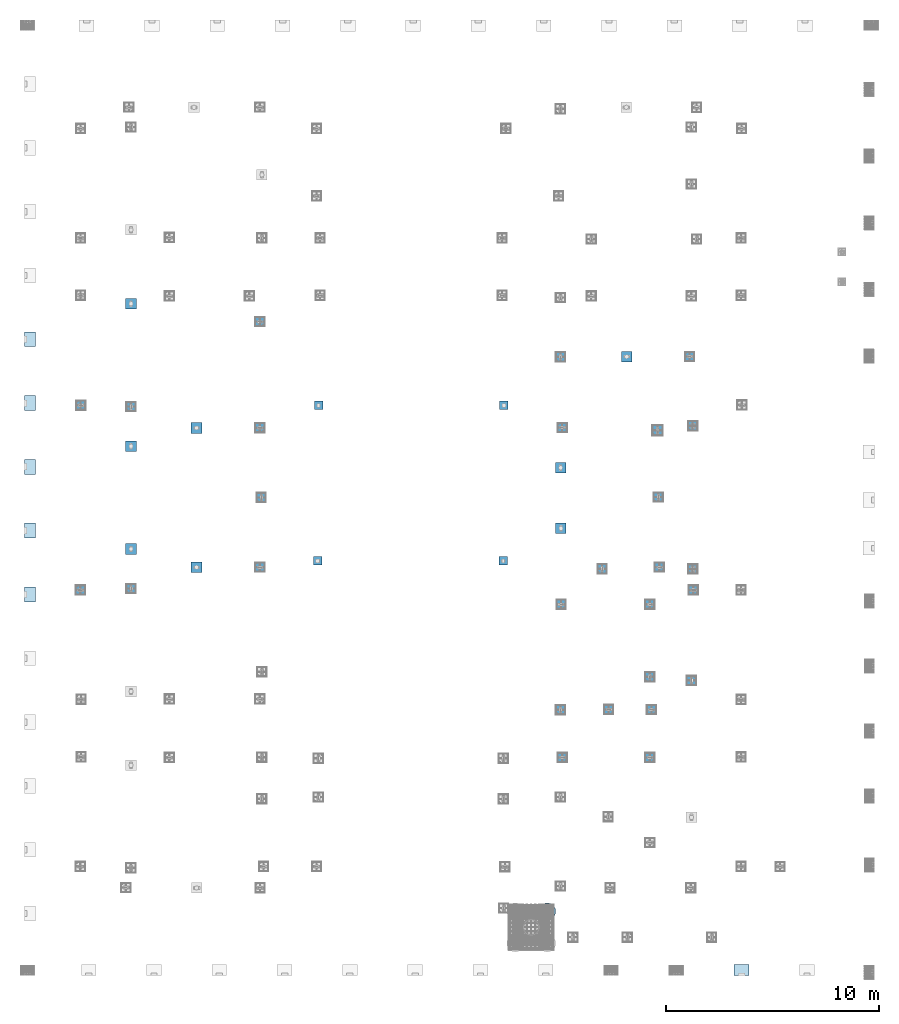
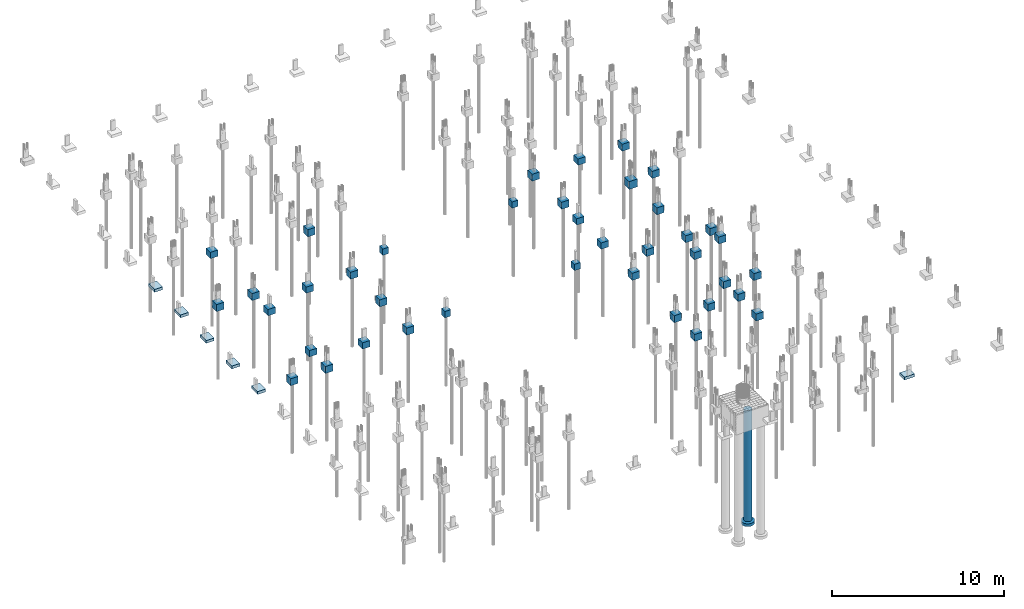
# One storey, part 118 of 119: 45 footings, 1 pile.
"""IFC4 building model written with IfcOpenShell, lengths in centimetres."""

from ifc_helpers import new_model, si_unit, derived_unit, frame, origin_with_axes, origin_2d_with_axis, place, context, project, spatial, circle, extrude, faceted_brep, material, element, save


model = new_model("IFC4")

# Units and contexts
model_context = context("Model", 3, precision=1e-05, world=origin_with_axes(), identifier="Body")
ifc_project = project(units=[si_unit("LENGTHUNIT", "METRE", prefix="CENTI"), si_unit("VOLUMEUNIT", "CUBIC_METRE"), si_unit("AREAUNIT", "SQUARE_METRE"), si_unit("POWERUNIT", "WATT"), si_unit("LUMINOUSFLUXUNIT", "LUMEN"), si_unit("ELECTRICCURRENTUNIT", "AMPERE"), si_unit("PRESSUREUNIT", "PASCAL", prefix="KILO"), si_unit("MASSUNIT", "GRAM", prefix="KILO"), si_unit("PLANEANGLEUNIT", "RADIAN"), derived_unit("VOLUMETRICFLOWRATEUNIT", [(si_unit("LENGTHUNIT", "METRE"), 3), (si_unit("TIMEUNIT", "SECOND"), -1)])], contexts=[model_context])

# Site, building, storey
site_placement = place(None, frame((-4000.0, 0.0, 0.0), z_axis=(0.0, 0.0, 1.0), x_axis=(1.0, 0.0, 0.0)))
site = spatial("IfcSite", under=ifc_project, at=site_placement, Name="PADRÃO")
building_placement = place(site_placement, frame((0.0, 0.0, -14.0)))
building = spatial("IfcBuilding", under=site, at=building_placement, Name="CRECHE PRÉ-ESCOLA TIPO 2")
storey_placement = place(building_placement, origin_with_axes())
storey = spatial("IfcBuildingStorey", under=building, at=storey_placement, Name="FUNDAÇÃO", CompositionType="ELEMENT", Elevation=-14.0)

# Footings
ifc_material = material(Name="Concreto")
footing_1_placement = place(storey_placement, frame((2943.24, 1406.51, -80.0), z_axis=(0.0, 0.0, 1.0), x_axis=(1.0, 0.0, 0.0)))
element("IfcFooting", 1, at=footing_1_placement, inside=storey, material=ifc_material, Name="P104", context=model_context, shape_type="SolidModel", body=[
    faceted_brep([(25.0, 25.0, -50.0), (25.0, -25.0, -50.0), (-25.0, -25.0, -50.0), (-25.0, 25.0, -50.0), (-25.0, 25.0, 0.0), (-25.0, -25.0, 0.0), (25.0, -25.0, 0.0), (25.0, 25.0, 0.0)], [[[0, 1, 2, 3]], [[4, 5, 6, 7]], [[4, 3, 5]], [[3, 2, 5]], [[5, 2, 6]], [[2, 1, 6]], [[6, 1, 7]], [[1, 0, 7]], [[7, 0, 4]], [[0, 3, 4]]]),
])
footing_2_placement = place(storey_placement, frame((3138.5, 1389.52, -80.0), z_axis=(0.0, 0.0, 1.0), x_axis=(1.0, 0.0, 0.0)))
element("IfcFooting", 2, at=footing_2_placement, inside=storey, material=ifc_material, Name="P105", context=model_context, shape_type="SolidModel", body=[
    faceted_brep([(-25.0, -25.0, -50.0), (-25.0, 25.0, -50.0), (25.0, 25.0, -50.0), (25.0, -25.0, -50.0), (25.0, -25.0, 0.0), (25.0, 25.0, 0.0), (-25.0, 25.0, 0.0), (-25.0, -25.0, 0.0)], [[[0, 1, 2, 3]], [[4, 5, 6, 7]], [[4, 3, 5]], [[3, 2, 5]], [[5, 2, 6]], [[2, 1, 6]], [[6, 1, 7]], [[1, 0, 7]], [[7, 0, 4]], [[0, 3, 4]]]),
])
footing_3_placement = place(storey_placement, frame((2523.5, 1252.08, -80.0), z_axis=(0.0, 0.0, 1.0), x_axis=(1.0, 0.0, 0.0)))
element("IfcFooting", 3, at=footing_3_placement, inside=storey, material=ifc_material, Name="P110", context=model_context, shape_type="SolidModel", body=[
    faceted_brep([(25.0, 25.0, -50.0), (25.0, -25.0, -50.0), (-25.0, -25.0, -50.0), (-25.0, 25.0, -50.0), (-25.0, 25.0, 0.0), (-25.0, -25.0, 0.0), (25.0, -25.0, 0.0), (25.0, 25.0, 0.0)], [[[0, 1, 2, 3]], [[4, 5, 6, 7]], [[4, 3, 5]], [[3, 2, 5]], [[5, 2, 6]], [[2, 1, 6]], [[6, 1, 7]], [[1, 0, 7]], [[7, 0, 4]], [[0, 3, 4]]]),
])
for number, where, z_axis, x_axis, name in (
    (4, (2749.74, 1253.51, -80.0), (0.0, 0.0, 1.0), (1.0, 0.0, 0.0), "P111"),
    (5, (2951.24, 1252.52, -80.0), (0.0, 0.0, 1.0), (1.0, 0.0, 0.0), "P112"),
    (6, (2531.5, 1027.52, -80.0), (0.0, 0.0, 1.0), (1.0, 0.0, 0.0), "P122"),
    (7, (2943.24, 1027.52, -80.0), (0.0, 0.0, 1.0), (1.0, 0.0, 0.0), "P123"),
):
    element("IfcFooting", number, at=place(storey_placement, frame(where, z_axis=z_axis, x_axis=x_axis)), inside=storey, material=ifc_material, Name=name, context=model_context, shape_type="SolidModel", body=[
        faceted_brep([(-25.0, 25.0, -50.0), (25.0, 25.0, -50.0), (25.0, -25.0, -50.0), (-25.0, -25.0, -50.0), (-25.0, -25.0, 0.0), (25.0, -25.0, 0.0), (25.0, 25.0, 0.0), (-25.0, 25.0, 0.0)], [[[0, 1, 2, 3]], [[4, 5, 6, 7]], [[4, 3, 5]], [[3, 2, 5]], [[5, 2, 6]], [[2, 1, 6]], [[6, 1, 7]], [[1, 0, 7]], [[7, 0, 4]], [[0, 3, 4]]]),
    ])
footing_4_placement = place(storey_placement, frame((3374.5, 29.0, -69.0), z_axis=(0.0, 0.0, 1.0), x_axis=(1.0, 0.0, 0.0)))
element("IfcFooting", 8, at=footing_4_placement, inside=storey, material=ifc_material, Name="P166", PredefinedType="PAD_FOOTING", context=model_context, shape_type="SolidModel", body=[
    faceted_brep([(-35.0, -27.0, -20.0), (-35.0, 27.0, -20.0), (35.0, 27.0, -20.0), (35.0, -27.0, -20.0), (35.0, -27.0, 0.0), (35.0, 27.0, 0.0), (-35.0, 27.0, 0.0), (-35.0, -27.0, 0.0)], [[[0, 1, 2, 3]], [[4, 5, 6, 7]], [[4, 3, 5]], [[3, 2, 5]], [[5, 2, 6]], [[2, 1, 6]], [[6, 1, 7]], [[1, 0, 7]], [[7, 0, 4]], [[0, 3, 4]]]),
])
footing_5_placement = place(storey_placement, frame((503.69, 3161.5, -80.0), z_axis=(0.0, 0.0, 1.0), x_axis=(1.0, 0.0, 0.0)))
element("IfcFooting", 9, at=footing_5_placement, inside=storey, material=ifc_material, Name="P48", context=model_context, shape_type="SolidModel", body=[
    faceted_brep([(25.0, 25.0, -45.0), (25.0, -25.0, -45.0), (-25.0, -25.0, -45.0), (-25.0, 25.0, -45.0), (-25.0, 25.0, 0.0), (-25.0, -25.0, 0.0), (25.0, -25.0, 0.0), (25.0, 25.0, 0.0)], [[[0, 1, 2, 3]], [[4, 5, 6, 7]], [[4, 3, 5]], [[3, 2, 5]], [[5, 2, 6]], [[2, 1, 6]], [[6, 1, 7]], [[1, 0, 7]], [[7, 0, 4]], [[0, 3, 4]]]),
])
footing_6_placement = place(storey_placement, frame((1109.72, 3076.5, -80.0), z_axis=(0.0, 0.0, 1.0), x_axis=(1.0, 0.0, 0.0)))
element("IfcFooting", 10, at=footing_6_placement, inside=storey, material=ifc_material, Name="P58", context=model_context, shape_type="SolidModel", body=[
    faceted_brep([(-25.0, 25.0, -50.0), (25.0, 25.0, -50.0), (25.0, -25.0, -50.0), (-25.0, -25.0, -50.0), (-25.0, -25.0, 0.0), (25.0, -25.0, 0.0), (25.0, 25.0, 0.0), (-25.0, 25.0, 0.0)], [[[0, 1, 2, 3]], [[4, 5, 6, 7]], [[4, 3, 5]], [[3, 2, 5]], [[5, 2, 6]], [[2, 1, 6]], [[6, 1, 7]], [[1, 0, 7]], [[7, 0, 4]], [[0, 3, 4]]]),
])
footing_7_placement = place(storey_placement, frame((28.5, 2994.5, -69.0), z_axis=(0.0, 0.0, 1.0), x_axis=(1.0, 0.0, 0.0)))
element("IfcFooting", 11, at=footing_7_placement, inside=storey, material=ifc_material, Name="P59", PredefinedType="PAD_FOOTING", context=model_context, shape_type="SolidModel", body=[
    faceted_brep([(-27.0, 35.0, -20.0), (27.0, 35.0, -20.0), (27.0, -35.0, -20.0), (-27.0, -35.0, -20.0), (-27.0, -35.0, 0.0), (27.0, -35.0, 0.0), (27.0, 35.0, 0.0), (-27.0, 35.0, 0.0)], [[[0, 1, 2, 3]], [[4, 5, 6, 7]], [[4, 3, 5]], [[3, 2, 5]], [[5, 2, 6]], [[2, 1, 6]], [[6, 1, 7]], [[1, 0, 7]], [[7, 0, 4]], [[0, 3, 4]]]),
])
footing_8_placement = place(storey_placement, frame((2523.5, 2911.02, -80.0), z_axis=(0.0, 0.0, 1.0), x_axis=(1.0, 0.0, 0.0)))
element("IfcFooting", 12, at=footing_8_placement, inside=storey, material=ifc_material, Name="P60", context=model_context, shape_type="SolidModel", body=[
    faceted_brep([(25.0, 25.0, -50.0), (25.0, -25.0, -50.0), (-25.0, -25.0, -50.0), (-25.0, 25.0, -50.0), (-25.0, 25.0, 0.0), (-25.0, -25.0, 0.0), (25.0, -25.0, 0.0), (25.0, 25.0, 0.0)], [[[0, 1, 2, 3]], [[4, 5, 6, 7]], [[4, 3, 5]], [[3, 2, 5]], [[5, 2, 6]], [[2, 1, 6]], [[6, 1, 7]], [[1, 0, 7]], [[7, 0, 4]], [[0, 3, 4]]]),
])
footing_9_placement = place(storey_placement, frame((2834.0, 2912.52, -80.0), z_axis=(0.0, 0.0, 1.0), x_axis=(1.0, 0.0, 0.0)))
element("IfcFooting", 13, at=footing_9_placement, inside=storey, material=ifc_material, Name="P61", context=model_context, shape_type="SolidModel", body=[
    faceted_brep([(25.0, -25.0, -45.0), (-25.0, -25.0, -45.0), (-25.0, 25.0, -45.0), (25.0, 25.0, -45.0), (25.0, 25.0, 0.0), (-25.0, 25.0, 0.0), (-25.0, -25.0, 0.0), (25.0, -25.0, 0.0)], [[[0, 1, 2, 3]], [[4, 5, 6, 7]], [[4, 3, 5]], [[3, 2, 5]], [[5, 2, 6]], [[2, 1, 6]], [[6, 1, 7]], [[1, 0, 7]], [[7, 0, 4]], [[0, 3, 4]]]),
])
footing_10_placement = place(storey_placement, frame((3130.5, 2912.52, -80.0), z_axis=(0.0, 0.0, 1.0), x_axis=(1.0, 0.0, 0.0)))
element("IfcFooting", 14, at=footing_10_placement, inside=storey, material=ifc_material, Name="P62", context=model_context, shape_type="SolidModel", body=[
    faceted_brep([(25.0, -25.0, -50.0), (-25.0, -25.0, -50.0), (-25.0, 25.0, -50.0), (25.0, 25.0, -50.0), (25.0, 25.0, 0.0), (-25.0, 25.0, 0.0), (-25.0, -25.0, 0.0), (25.0, -25.0, 0.0)], [[[0, 1, 2, 3]], [[4, 5, 6, 7]], [[4, 3, 5]], [[3, 2, 5]], [[5, 2, 6]], [[2, 1, 6]], [[6, 1, 7]], [[1, 0, 7]], [[7, 0, 4]], [[0, 3, 4]]]),
])
footing_11_placement = place(storey_placement, frame((28.5, 2694.5, -69.0), z_axis=(0.0, 0.0, 1.0), x_axis=(1.0, 0.0, 0.0)))
element("IfcFooting", 15, at=footing_11_placement, inside=storey, material=ifc_material, Name="P64", PredefinedType="PAD_FOOTING", context=model_context, shape_type="SolidModel", body=[
    faceted_brep([(-27.0, 35.0, -20.0), (27.0, 35.0, -20.0), (27.0, -35.0, -20.0), (-27.0, -35.0, -20.0), (-27.0, -35.0, 0.0), (27.0, -35.0, 0.0), (27.0, 35.0, 0.0), (-27.0, 35.0, 0.0)], [[[0, 1, 2, 3]], [[4, 5, 6, 7]], [[4, 3, 5]], [[3, 2, 5]], [[5, 2, 6]], [[2, 1, 6]], [[6, 1, 7]], [[1, 0, 7]], [[7, 0, 4]], [[0, 3, 4]]]),
])
footing_12_placement = place(storey_placement, frame((268.0, 2683.51, -80.0), z_axis=(0.0, 0.0, 1.0), x_axis=(1.0, 0.0, 0.0)))
element("IfcFooting", 16, at=footing_12_placement, inside=storey, material=ifc_material, Name="P65", context=model_context, shape_type="SolidModel", body=[
    faceted_brep([(25.0, -25.0, -50.0), (-25.0, -25.0, -50.0), (-25.0, 25.0, -50.0), (25.0, 25.0, -50.0), (25.0, 25.0, 0.0), (-25.0, 25.0, 0.0), (-25.0, -25.0, 0.0), (25.0, -25.0, 0.0)], [[[0, 1, 2, 3]], [[4, 5, 6, 7]], [[4, 3, 5]], [[3, 2, 5]], [[5, 2, 6]], [[2, 1, 6]], [[6, 1, 7]], [[1, 0, 7]], [[7, 0, 4]], [[0, 3, 4]]]),
])
footing_13_placement = place(storey_placement, frame((503.69, 2677.01, -80.0), z_axis=(0.0, 0.0, 1.0), x_axis=(1.0, 0.0, 0.0)))
element("IfcFooting", 17, at=footing_13_placement, inside=storey, material=ifc_material, Name="P66", context=model_context, shape_type="SolidModel", body=[
    faceted_brep([(25.0, 25.0, -50.0), (25.0, -25.0, -50.0), (-25.0, -25.0, -50.0), (-25.0, 25.0, -50.0), (-25.0, 25.0, 0.0), (-25.0, -25.0, 0.0), (25.0, -25.0, 0.0), (25.0, 25.0, 0.0)], [[[0, 1, 2, 3]], [[4, 5, 6, 7]], [[4, 3, 5]], [[3, 2, 5]], [[5, 2, 6]], [[2, 1, 6]], [[6, 1, 7]], [[1, 0, 7]], [[7, 0, 4]], [[0, 3, 4]]]),
])
for number, where, z_axis, x_axis, name in (
    (18, (1385.25, 2683.51, -80.0), (0.0, 0.0, 1.0), (1.0, 0.0, 0.0), "P67"),
    (19, (2256.49, 2683.51, -50.0), (0.0, 0.0, 1.0), (1.0, 0.0, 0.0), "P68"),
):
    element("IfcFooting", number, at=place(storey_placement, frame(where, z_axis=z_axis, x_axis=x_axis)), inside=storey, material=ifc_material, Name=name, context=model_context, shape_type="SolidModel", body=[
        faceted_brep([(-20.0, -20.0, -45.0), (-20.0, 20.0, -45.0), (20.0, 20.0, -45.0), (20.0, -20.0, -45.0), (20.0, -20.0, 0.0), (20.0, 20.0, 0.0), (-20.0, 20.0, 0.0), (-20.0, -20.0, 0.0)], [[[0, 1, 2, 3]], [[4, 5, 6, 7]], [[4, 3, 5]], [[3, 2, 5]], [[5, 2, 6]], [[2, 1, 6]], [[6, 1, 7]], [[1, 0, 7]], [[7, 0, 4]], [[0, 3, 4]]]),
    ])
footing_14_placement = place(storey_placement, frame((811.39, 2577.5, -80.0), z_axis=(0.0, 0.0, 1.0), x_axis=(1.0, 0.0, 0.0)))
element("IfcFooting", 20, at=footing_14_placement, inside=storey, material=ifc_material, Name="P70", context=model_context, shape_type="SolidModel", body=[
    faceted_brep([(25.0, -25.0, -45.0), (-25.0, -25.0, -45.0), (-25.0, 25.0, -45.0), (25.0, 25.0, -45.0), (25.0, 25.0, 0.0), (-25.0, 25.0, 0.0), (-25.0, -25.0, 0.0), (25.0, -25.0, 0.0)], [[[0, 1, 2, 3]], [[4, 5, 6, 7]], [[4, 3, 5]], [[3, 2, 5]], [[5, 2, 6]], [[2, 1, 6]], [[6, 1, 7]], [[1, 0, 7]], [[7, 0, 4]], [[0, 3, 4]]]),
])
footing_15_placement = place(storey_placement, frame((1109.72, 2577.5, -80.0), z_axis=(0.0, 0.0, 1.0), x_axis=(1.0, 0.0, 0.0)))
element("IfcFooting", 21, at=footing_15_placement, inside=storey, material=ifc_material, Name="P71", context=model_context, shape_type="SolidModel", body=[
    faceted_brep([(-25.0, 25.0, -50.0), (25.0, 25.0, -50.0), (25.0, -25.0, -50.0), (-25.0, -25.0, -50.0), (-25.0, -25.0, 0.0), (25.0, -25.0, 0.0), (25.0, 25.0, 0.0), (-25.0, 25.0, 0.0)], [[[0, 1, 2, 3]], [[4, 5, 6, 7]], [[4, 3, 5]], [[3, 2, 5]], [[5, 2, 6]], [[2, 1, 6]], [[6, 1, 7]], [[1, 0, 7]], [[7, 0, 4]], [[0, 3, 4]]]),
])
footing_16_placement = place(storey_placement, frame((2531.5, 2578.52, -80.0), z_axis=(0.0, 0.0, 1.0), x_axis=(1.0, 0.0, 0.0)))
element("IfcFooting", 22, at=footing_16_placement, inside=storey, material=ifc_material, Name="P72", context=model_context, shape_type="SolidModel", body=[
    faceted_brep([(25.0, -25.0, -50.0), (-25.0, -25.0, -50.0), (-25.0, 25.0, -50.0), (25.0, 25.0, -50.0), (25.0, 25.0, 0.0), (-25.0, 25.0, 0.0), (-25.0, -25.0, 0.0), (25.0, -25.0, 0.0)], [[[0, 1, 2, 3]], [[4, 5, 6, 7]], [[4, 3, 5]], [[3, 2, 5]], [[5, 2, 6]], [[2, 1, 6]], [[6, 1, 7]], [[1, 0, 7]], [[7, 0, 4]], [[0, 3, 4]]]),
])
footing_17_placement = place(storey_placement, frame((2979.5, 2566.02, -80.0), z_axis=(0.0, 0.0, 1.0), x_axis=(1.0, 0.0, 0.0)))
element("IfcFooting", 23, at=footing_17_placement, inside=storey, material=ifc_material, Name="P73", context=model_context, shape_type="SolidModel", body=[
    faceted_brep([(27.5, 27.5, -55.0), (27.5, -27.5, -55.0), (-27.5, -27.5, -55.0), (-27.5, 27.5, -55.0), (-27.5, 27.5, 0.0), (-27.5, -27.5, 0.0), (27.5, -27.5, 0.0), (27.5, 27.5, 0.0)], [[[0, 1, 2, 3]], [[4, 5, 6, 7]], [[4, 3, 5]], [[3, 2, 5]], [[5, 2, 6]], [[2, 1, 6]], [[6, 1, 7]], [[1, 0, 7]], [[7, 0, 4]], [[0, 3, 4]]]),
])
footing_18_placement = place(storey_placement, frame((3145.02, 2586.52, -80.0), z_axis=(0.0, 0.0, 1.0), x_axis=(1.0, 0.0, 0.0)))
element("IfcFooting", 24, at=footing_18_placement, inside=storey, material=ifc_material, Name="P74", context=model_context, shape_type="SolidModel", body=[
    faceted_brep([(25.0, 25.0, -50.0), (25.0, -25.0, -50.0), (-25.0, -25.0, -50.0), (-25.0, 25.0, -50.0), (-25.0, 25.0, 0.0), (-25.0, -25.0, 0.0), (25.0, -25.0, 0.0), (25.0, 25.0, 0.0)], [[[0, 1, 2, 3]], [[4, 5, 6, 7]], [[4, 3, 5]], [[3, 2, 5]], [[5, 2, 6]], [[2, 1, 6]], [[6, 1, 7]], [[1, 0, 7]], [[7, 0, 4]], [[0, 3, 4]]]),
])
footing_19_placement = place(storey_placement, frame((503.69, 2491.5, -80.0), z_axis=(0.0, 0.0, 1.0), x_axis=(1.0, 0.0, 0.0)))
element("IfcFooting", 25, at=footing_19_placement, inside=storey, material=ifc_material, Name="P75", context=model_context, shape_type="SolidModel", body=[
    faceted_brep([(25.0, 25.0, -45.0), (25.0, -25.0, -45.0), (-25.0, -25.0, -45.0), (-25.0, 25.0, -45.0), (-25.0, 25.0, 0.0), (-25.0, -25.0, 0.0), (25.0, -25.0, 0.0), (25.0, 25.0, 0.0)], [[[0, 1, 2, 3]], [[4, 5, 6, 7]], [[4, 3, 5]], [[3, 2, 5]], [[5, 2, 6]], [[2, 1, 6]], [[6, 1, 7]], [[1, 0, 7]], [[7, 0, 4]], [[0, 3, 4]]]),
])
footing_20_placement = place(storey_placement, frame((28.5, 2394.5, -69.0), z_axis=(0.0, 0.0, 1.0), x_axis=(1.0, 0.0, 0.0)))
element("IfcFooting", 26, at=footing_20_placement, inside=storey, material=ifc_material, Name="P77", PredefinedType="PAD_FOOTING", context=model_context, shape_type="SolidModel", body=[
    faceted_brep([(-27.0, 35.0, -20.0), (27.0, 35.0, -20.0), (27.0, -35.0, -20.0), (-27.0, -35.0, -20.0), (-27.0, -35.0, 0.0), (27.0, -35.0, 0.0), (27.0, 35.0, 0.0), (-27.0, 35.0, 0.0)], [[[0, 1, 2, 3]], [[4, 5, 6, 7]], [[4, 3, 5]], [[3, 2, 5]], [[5, 2, 6]], [[2, 1, 6]], [[6, 1, 7]], [[1, 0, 7]], [[7, 0, 4]], [[0, 3, 4]]]),
])
footing_21_placement = place(storey_placement, frame((2523.5, 2390.27, -80.0), z_axis=(0.0, 0.0, 1.0), x_axis=(1.0, 0.0, 0.0)))
element("IfcFooting", 27, at=footing_21_placement, inside=storey, material=ifc_material, Name="P78", context=model_context, shape_type="SolidModel", body=[
    faceted_brep([(25.0, 25.0, -45.0), (25.0, -25.0, -45.0), (-25.0, -25.0, -45.0), (-25.0, 25.0, -45.0), (-25.0, 25.0, 0.0), (-25.0, -25.0, 0.0), (25.0, -25.0, 0.0), (25.0, 25.0, 0.0)], [[[0, 1, 2, 3]], [[4, 5, 6, 7]], [[4, 3, 5]], [[3, 2, 5]], [[5, 2, 6]], [[2, 1, 6]], [[6, 1, 7]], [[1, 0, 7]], [[7, 0, 4]], [[0, 3, 4]]]),
])
for number, where, z_axis, x_axis, name in (
    (28, (1116.0, 2250.0, -80.0), (0.0, 0.0, 1.0), (1.0, 0.0, 0.0), "P79"),
    (29, (2983.0, 2251.77, -80.0), (0.0, 0.0, 1.0), (1.0, 0.0, 0.0), "P80"),
):
    element("IfcFooting", number, at=place(storey_placement, frame(where, z_axis=z_axis, x_axis=x_axis)), inside=storey, material=ifc_material, Name=name, context=model_context, shape_type="SolidModel", body=[
        faceted_brep([(25.0, 25.0, -50.0), (25.0, -25.0, -50.0), (-25.0, -25.0, -50.0), (-25.0, 25.0, -50.0), (-25.0, 25.0, 0.0), (-25.0, -25.0, 0.0), (25.0, -25.0, 0.0), (25.0, 25.0, 0.0)], [[[0, 1, 2, 3]], [[4, 5, 6, 7]], [[4, 3, 5]], [[3, 2, 5]], [[5, 2, 6]], [[2, 1, 6]], [[6, 1, 7]], [[1, 0, 7]], [[7, 0, 4]], [[0, 3, 4]]]),
    ])
footing_22_placement = place(storey_placement, frame((28.5, 2094.5, -69.0), z_axis=(0.0, 0.0, 1.0), x_axis=(1.0, 0.0, 0.0)))
element("IfcFooting", 30, at=footing_22_placement, inside=storey, material=ifc_material, Name="P82", PredefinedType="PAD_FOOTING", context=model_context, shape_type="SolidModel", body=[
    faceted_brep([(-27.0, 35.0, -20.0), (27.0, 35.0, -20.0), (27.0, -35.0, -20.0), (-27.0, -35.0, -20.0), (-27.0, -35.0, 0.0), (27.0, -35.0, 0.0), (27.0, 35.0, 0.0), (-27.0, 35.0, 0.0)], [[[0, 1, 2, 3]], [[4, 5, 6, 7]], [[4, 3, 5]], [[3, 2, 5]], [[5, 2, 6]], [[2, 1, 6]], [[6, 1, 7]], [[1, 0, 7]], [[7, 0, 4]], [[0, 3, 4]]]),
])
for number, where, z_axis, x_axis, name in (
    (31, (2524.49, 2105.52, -80.0), (0.0, 0.0, 1.0), (1.0, 0.0, 0.0), "P83"),
    (32, (503.69, 2008.5, -80.0), (0.0, 0.0, 1.0), (1.0, 0.0, 0.0), "P84"),
):
    element("IfcFooting", number, at=place(storey_placement, frame(where, z_axis=z_axis, x_axis=x_axis)), inside=storey, material=ifc_material, Name=name, context=model_context, shape_type="SolidModel", body=[
        faceted_brep([(25.0, 25.0, -45.0), (25.0, -25.0, -45.0), (-25.0, -25.0, -45.0), (-25.0, 25.0, -45.0), (-25.0, 25.0, 0.0), (-25.0, -25.0, 0.0), (25.0, -25.0, 0.0), (25.0, 25.0, 0.0)], [[[0, 1, 2, 3]], [[4, 5, 6, 7]], [[4, 3, 5]], [[3, 2, 5]], [[5, 2, 6]], [[2, 1, 6]], [[6, 1, 7]], [[1, 0, 7]], [[7, 0, 4]], [[0, 3, 4]]]),
    ])
footing_23_placement = place(storey_placement, frame((811.39, 1922.5, -80.0), z_axis=(0.0, 0.0, 1.0), x_axis=(1.0, 0.0, 0.0)))
element("IfcFooting", 33, at=footing_23_placement, inside=storey, material=ifc_material, Name="P86", context=model_context, shape_type="SolidModel", body=[
    faceted_brep([(25.0, -25.0, -45.0), (-25.0, -25.0, -45.0), (-25.0, 25.0, -45.0), (25.0, 25.0, -45.0), (25.0, 25.0, 0.0), (-25.0, 25.0, 0.0), (-25.0, -25.0, 0.0), (25.0, -25.0, 0.0)], [[[0, 1, 2, 3]], [[4, 5, 6, 7]], [[4, 3, 5]], [[3, 2, 5]], [[5, 2, 6]], [[2, 1, 6]], [[6, 1, 7]], [[1, 0, 7]], [[7, 0, 4]], [[0, 3, 4]]]),
])
footing_24_placement = place(storey_placement, frame((1109.72, 1922.5, -80.0), z_axis=(0.0, 0.0, 1.0), x_axis=(1.0, 0.0, 0.0)))
element("IfcFooting", 34, at=footing_24_placement, inside=storey, material=ifc_material, Name="P87", context=model_context, shape_type="SolidModel", body=[
    faceted_brep([(25.0, -25.0, -50.0), (-25.0, -25.0, -50.0), (-25.0, 25.0, -50.0), (25.0, 25.0, -50.0), (25.0, 25.0, 0.0), (-25.0, 25.0, 0.0), (-25.0, -25.0, 0.0), (25.0, -25.0, 0.0)], [[[0, 1, 2, 3]], [[4, 5, 6, 7]], [[4, 3, 5]], [[3, 2, 5]], [[5, 2, 6]], [[2, 1, 6]], [[6, 1, 7]], [[1, 0, 7]], [[7, 0, 4]], [[0, 3, 4]]]),
])
footing_25_placement = place(storey_placement, frame((1380.84, 1952.5, -80.0), z_axis=(0.0, 0.0, 1.0), x_axis=(1.0, 0.0, 0.0)))
element("IfcFooting", 35, at=footing_25_placement, inside=storey, material=ifc_material, Name="P88", context=model_context, shape_type="SolidModel", body=[
    faceted_brep([(20.0, 20.0, -45.0), (20.0, -20.0, -45.0), (-20.0, -20.0, -45.0), (-20.0, 20.0, -45.0), (-20.0, 20.0, 0.0), (-20.0, -20.0, 0.0), (20.0, -20.0, 0.0), (20.0, 20.0, 0.0)], [[[0, 1, 2, 3]], [[4, 5, 6, 7]], [[4, 3, 5]], [[3, 2, 5]], [[5, 2, 6]], [[2, 1, 6]], [[6, 1, 7]], [[1, 0, 7]], [[7, 0, 4]], [[0, 3, 4]]]),
])
footing_26_placement = place(storey_placement, frame((2253.49, 1952.5, -50.0), z_axis=(0.0, 0.0, 1.0), x_axis=(1.0, 0.0, 0.0)))
element("IfcFooting", 36, at=footing_26_placement, inside=storey, material=ifc_material, Name="P89", context=model_context, shape_type="SolidModel", body=[
    faceted_brep([(-20.0, -20.0, -45.0), (-20.0, 20.0, -45.0), (20.0, 20.0, -45.0), (20.0, -20.0, -45.0), (20.0, -20.0, 0.0), (20.0, 20.0, 0.0), (-20.0, 20.0, 0.0), (-20.0, -20.0, 0.0)], [[[0, 1, 2, 3]], [[4, 5, 6, 7]], [[4, 3, 5]], [[3, 2, 5]], [[5, 2, 6]], [[2, 1, 6]], [[6, 1, 7]], [[1, 0, 7]], [[7, 0, 4]], [[0, 3, 4]]]),
])
footing_27_placement = place(storey_placement, frame((2718.75, 1914.52, -80.0), z_axis=(0.0, 0.0, 1.0), x_axis=(1.0, 0.0, 0.0)))
element("IfcFooting", 37, at=footing_27_placement, inside=storey, material=ifc_material, Name="P90", context=model_context, shape_type="SolidModel", body=[
    faceted_brep([(25.0, 25.0, -50.0), (25.0, -25.0, -50.0), (-25.0, -25.0, -50.0), (-25.0, 25.0, -50.0), (-25.0, 25.0, 0.0), (-25.0, -25.0, 0.0), (25.0, -25.0, 0.0), (25.0, 25.0, 0.0)], [[[0, 1, 2, 3]], [[4, 5, 6, 7]], [[4, 3, 5]], [[3, 2, 5]], [[5, 2, 6]], [[2, 1, 6]], [[6, 1, 7]], [[1, 0, 7]], [[7, 0, 4]], [[0, 3, 4]]]),
])
footing_28_placement = place(storey_placement, frame((2987.5, 1922.52, -80.0), z_axis=(0.0, 0.0, 1.0), x_axis=(1.0, 0.0, 0.0)))
element("IfcFooting", 38, at=footing_28_placement, inside=storey, material=ifc_material, Name="P91", context=model_context, shape_type="SolidModel", body=[
    faceted_brep([(-25.0, 25.0, -50.0), (25.0, 25.0, -50.0), (25.0, -25.0, -50.0), (-25.0, -25.0, -50.0), (-25.0, -25.0, 0.0), (25.0, -25.0, 0.0), (25.0, 25.0, 0.0), (-25.0, 25.0, 0.0)], [[[0, 1, 2, 3]], [[4, 5, 6, 7]], [[4, 3, 5]], [[3, 2, 5]], [[5, 2, 6]], [[2, 1, 6]], [[6, 1, 7]], [[1, 0, 7]], [[7, 0, 4]], [[0, 3, 4]]]),
])
footing_29_placement = place(storey_placement, frame((3145.02, 1913.52, -80.0), z_axis=(0.0, 0.0, 1.0), x_axis=(1.0, 0.0, 0.0)))
element("IfcFooting", 39, at=footing_29_placement, inside=storey, material=ifc_material, Name="P92", context=model_context, shape_type="SolidModel", body=[
    faceted_brep([(25.0, 25.0, -50.0), (25.0, -25.0, -50.0), (-25.0, -25.0, -50.0), (-25.0, 25.0, -50.0), (-25.0, 25.0, 0.0), (-25.0, -25.0, 0.0), (25.0, -25.0, 0.0), (25.0, 25.0, 0.0)], [[[0, 1, 2, 3]], [[4, 5, 6, 7]], [[4, 3, 5]], [[3, 2, 5]], [[5, 2, 6]], [[2, 1, 6]], [[6, 1, 7]], [[1, 0, 7]], [[7, 0, 4]], [[0, 3, 4]]]),
])
footing_30_placement = place(storey_placement, frame((28.5, 1794.5, -69.0), z_axis=(0.0, 0.0, 1.0), x_axis=(1.0, 0.0, 0.0)))
element("IfcFooting", 40, at=footing_30_placement, inside=storey, material=ifc_material, Name="P93", PredefinedType="PAD_FOOTING", context=model_context, shape_type="SolidModel", body=[
    faceted_brep([(-27.0, 35.0, -20.0), (27.0, 35.0, -20.0), (27.0, -35.0, -20.0), (-27.0, -35.0, -20.0), (-27.0, -35.0, 0.0), (27.0, -35.0, 0.0), (27.0, 35.0, 0.0), (-27.0, 35.0, 0.0)], [[[0, 1, 2, 3]], [[4, 5, 6, 7]], [[4, 3, 5]], [[3, 2, 5]], [[5, 2, 6]], [[2, 1, 6]], [[6, 1, 7]], [[1, 0, 7]], [[7, 0, 4]], [[0, 3, 4]]]),
])
footing_31_placement = place(storey_placement, frame((266.0, 1815.0, -80.0), z_axis=(0.0, 0.0, 1.0), x_axis=(1.0, 0.0, 0.0)))
element("IfcFooting", 41, at=footing_31_placement, inside=storey, material=ifc_material, Name="P94", context=model_context, shape_type="SolidModel", body=[
    faceted_brep([(25.0, -25.0, -50.0), (-25.0, -25.0, -50.0), (-25.0, 25.0, -50.0), (25.0, 25.0, -50.0), (25.0, 25.0, 0.0), (-25.0, 25.0, 0.0), (-25.0, -25.0, 0.0), (25.0, -25.0, 0.0)], [[[0, 1, 2, 3]], [[4, 5, 6, 7]], [[4, 3, 5]], [[3, 2, 5]], [[5, 2, 6]], [[2, 1, 6]], [[6, 1, 7]], [[1, 0, 7]], [[7, 0, 4]], [[0, 3, 4]]]),
])
footing_32_placement = place(storey_placement, frame((503.69, 1821.5, -80.0), z_axis=(0.0, 0.0, 1.0), x_axis=(1.0, 0.0, 0.0)))
element("IfcFooting", 42, at=footing_32_placement, inside=storey, material=ifc_material, Name="P95", context=model_context, shape_type="SolidModel", body=[
    faceted_brep([(25.0, 25.0, -50.0), (25.0, -25.0, -50.0), (-25.0, -25.0, -50.0), (-25.0, 25.0, -50.0), (-25.0, 25.0, 0.0), (-25.0, -25.0, 0.0), (25.0, -25.0, 0.0), (25.0, 25.0, 0.0)], [[[0, 1, 2, 3]], [[4, 5, 6, 7]], [[4, 3, 5]], [[3, 2, 5]], [[5, 2, 6]], [[2, 1, 6]], [[6, 1, 7]], [[1, 0, 7]], [[7, 0, 4]], [[0, 3, 4]]]),
])
for number, where, z_axis, x_axis, name in (
    (43, (3147.5, 1815.02, -80.0), (0.0, 0.0, 1.0), (1.0, 0.0, 0.0), "P96"),
    (44, (2526.0, 1747.84, -80.0), (0.0, 0.0, 1.0), (1.0, 0.0, 0.0), "P98"),
    (45, (2943.24, 1747.84, -80.0), (0.0, 0.0, 1.0), (1.0, 0.0, 0.0), "P99"),
):
    element("IfcFooting", number, at=place(storey_placement, frame(where, z_axis=z_axis, x_axis=x_axis)), inside=storey, material=ifc_material, Name=name, context=model_context, shape_type="SolidModel", body=[
        faceted_brep([(-25.0, 25.0, -50.0), (25.0, 25.0, -50.0), (25.0, -25.0, -50.0), (-25.0, -25.0, -50.0), (-25.0, -25.0, 0.0), (25.0, -25.0, 0.0), (25.0, 25.0, 0.0), (-25.0, 25.0, 0.0)], [[[0, 1, 2, 3]], [[4, 5, 6, 7]], [[4, 3, 5]], [[3, 2, 5]], [[5, 2, 6]], [[2, 1, 6]], [[6, 1, 7]], [[1, 0, 7]], [[7, 0, 4]], [[0, 3, 4]]]),
    ])

# Pile
pile_placement = place(storey_placement, frame((2460.28, 304.39, -165.0), z_axis=(0.0, 0.0, 1.0), x_axis=(1.0, 0.0, 0.0)))
element("IfcPile", 46, at=pile_placement, inside=storey, material=ifc_material, Name="T151-2", context=model_context, shape_type="SolidModel", body=[
    extrude(circle(Radius=25.0, at=origin_2d_with_axis()), frame((0.0, 0.0, -790.0), z_axis=(0.0, 0.0, 1.0), x_axis=(1.0, 0.0, 0.0)), (0.0, 0.0, 1.0), 790.0),
    faceted_brep([(-6.94592710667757, -39.3923101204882, -815.0), (-13.6808057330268, -37.5877048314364, -815.0), (-20.0, -34.6410161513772, -815.0), (-25.7115043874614, -30.6417777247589, -815.0), (-30.6417777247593, -25.7115043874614, -815.0), (-34.6410161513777, -20.0, -815.0), (-37.5877048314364, -13.6808057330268, -815.0), (-39.3923101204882, -6.94592710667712, -815.0), (-40.0, 0.0, -815.0), (-39.3923101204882, 6.94592710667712, -815.0), (-37.5877048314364, 13.6808057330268, -815.0), (-34.6410161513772, 20.0, -815.0), (-30.6417777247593, 25.7115043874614, -815.0), (-25.7115043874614, 30.6417777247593, -815.0), (-20.0, 34.6410161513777, -815.0), (-13.6808057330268, 37.5877048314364, -815.0), (-6.94592710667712, 39.3923101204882, -815.0), (0.0, 40.0, -815.0), (6.94592710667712, 39.3923101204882, -815.0), (13.6808057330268, 37.5877048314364, -815.0), (20.0, 34.6410161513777, -815.0), (25.7115043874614, 30.6417777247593, -815.0), (30.6417777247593, 25.7115043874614, -815.0), (34.6410161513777, 20.0, -815.0), (37.5877048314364, 13.6808057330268, -815.0), (39.3923101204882, 6.94592710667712, -815.0), (40.0, 0.0, -815.0), (39.3923101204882, -6.94592710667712, -815.0), (37.5877048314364, -13.6808057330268, -815.0), (34.6410161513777, -20.0, -815.0), (30.6417777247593, -25.7115043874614, -815.0), (25.7115043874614, -30.6417777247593, -815.0), (20.0, -34.6410161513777, -815.0), (13.6808057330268, -37.5877048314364, -815.0), (6.94592710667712, -39.3923101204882, -815.0), (0.0, -40.0, -815.0), (0.0, -40.0, -795.0), (6.94592710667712, -39.3923101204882, -795.0), (13.6808057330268, -37.5877048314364, -795.0), (20.0, -34.6410161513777, -795.0), (25.7115043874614, -30.6417777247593, -795.0), (30.6417777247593, -25.7115043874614, -795.0), (34.6410161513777, -20.0, -795.0), (37.5877048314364, -13.6808057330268, -795.0), (39.3923101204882, -6.94592710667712, -795.0), (40.0, 0.0, -795.0), (39.3923101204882, 6.94592710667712, -795.0), (37.5877048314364, 13.6808057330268, -795.0), (34.6410161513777, 20.0, -795.0), (30.6417777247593, 25.7115043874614, -795.0), (25.7115043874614, 30.6417777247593, -795.0), (20.0, 34.6410161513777, -795.0), (13.6808057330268, 37.5877048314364, -795.0), (6.94592710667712, 39.3923101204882, -795.0), (0.0, 40.0, -795.0), (-6.94592710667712, 39.3923101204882, -795.0), (-13.6808057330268, 37.5877048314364, -795.0), (-20.0, 34.6410161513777, -795.0), (-25.7115043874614, 30.6417777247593, -795.0), (-30.6417777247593, 25.7115043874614, -795.0), (-34.6410161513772, 20.0, -795.0), (-37.5877048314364, 13.6808057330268, -795.0), (-39.3923101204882, 6.94592710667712, -795.0), (-40.0, 0.0, -795.0), (-39.3923101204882, -6.94592710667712, -795.0), (-37.5877048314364, -13.6808057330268, -795.0), (-34.6410161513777, -20.0, -795.0), (-30.6417777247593, -25.7115043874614, -795.0), (-25.7115043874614, -30.6417777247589, -795.0), (-20.0, -34.6410161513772, -795.0), (-13.6808057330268, -37.5877048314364, -795.0), (-6.94592710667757, -39.3923101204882, -795.0)], [[[0, 1, 2, 3, 4, 5, 6, 7, 8, 9, 10, 11, 12, 13, 14, 15, 16, 17, 18, 19, 20, 21, 22, 23, 24, 25, 26, 27, 28, 29, 30, 31, 32, 33, 34, 35]], [[36, 37, 38, 39, 40, 41, 42, 43, 44, 45, 46, 47, 48, 49, 50, 51, 52, 53, 54, 55, 56, 57, 58, 59, 60, 61, 62, 63, 64, 65, 66, 67, 68, 69, 70, 71]], [[36, 35, 37]], [[35, 34, 37]], [[37, 34, 38]], [[34, 33, 38]], [[38, 33, 39]], [[33, 32, 39]], [[39, 32, 40]], [[32, 31, 40]], [[40, 31, 41]], [[31, 30, 41]], [[41, 30, 42]], [[30, 29, 42]], [[42, 29, 43]], [[29, 28, 43]], [[43, 28, 44]], [[28, 27, 44]], [[44, 27, 45]], [[27, 26, 45]], [[45, 26, 46]], [[26, 25, 46]], [[46, 25, 47]], [[25, 24, 47]], [[47, 24, 48]], [[24, 23, 48]], [[48, 23, 49]], [[23, 22, 49]], [[49, 22, 50]], [[22, 21, 50]], [[50, 21, 51]], [[21, 20, 51]], [[51, 20, 52]], [[20, 19, 52]], [[52, 19, 53]], [[19, 18, 53]], [[53, 18, 54]], [[18, 17, 54]], [[54, 17, 55]], [[17, 16, 55]], [[55, 16, 56]], [[16, 15, 56]], [[56, 15, 57]], [[15, 14, 57]], [[57, 14, 58]], [[14, 13, 58]], [[58, 13, 59]], [[13, 12, 59]], [[59, 12, 60]], [[12, 11, 60]], [[60, 11, 61]], [[11, 10, 61]], [[61, 10, 62]], [[10, 9, 62]], [[62, 9, 63]], [[9, 8, 63]], [[63, 8, 64]], [[8, 7, 64]], [[64, 7, 65]], [[7, 6, 65]], [[65, 6, 66]], [[6, 5, 66]], [[66, 5, 67]], [[5, 4, 67]], [[67, 4, 68]], [[4, 3, 68]], [[68, 3, 69]], [[3, 2, 69]], [[69, 2, 70]], [[2, 1, 70]], [[70, 1, 71]], [[1, 0, 71]], [[71, 0, 36]], [[0, 35, 36]]]),
    faceted_brep([(-6.94592710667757, -39.3923101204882, -795.0), (-13.6808057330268, -37.5877048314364, -795.0), (-20.0, -34.6410161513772, -795.0), (-25.7115043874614, -30.6417777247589, -795.0), (-30.6417777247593, -25.7115043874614, -795.0), (-34.6410161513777, -20.0, -795.0), (-37.5877048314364, -13.6808057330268, -795.0), (-39.3923101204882, -6.94592710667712, -795.0), (-40.0, 0.0, -795.0), (-39.3923101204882, 6.94592710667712, -795.0), (-37.5877048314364, 13.6808057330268, -795.0), (-34.6410161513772, 20.0, -795.0), (-30.6417777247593, 25.7115043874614, -795.0), (-25.7115043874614, 30.6417777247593, -795.0), (-20.0, 34.6410161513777, -795.0), (-13.6808057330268, 37.5877048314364, -795.0), (-6.94592710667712, 39.3923101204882, -795.0), (0.0, 40.0, -795.0), (6.94592710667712, 39.3923101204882, -795.0), (13.6808057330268, 37.5877048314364, -795.0), (20.0, 34.6410161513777, -795.0), (25.7115043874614, 30.6417777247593, -795.0), (30.6417777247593, 25.7115043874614, -795.0), (34.6410161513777, 20.0, -795.0), (37.5877048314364, 13.6808057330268, -795.0), (39.3923101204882, 6.94592710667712, -795.0), (40.0, 0.0, -795.0), (39.3923101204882, -6.94592710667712, -795.0), (37.5877048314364, -13.6808057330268, -795.0), (34.6410161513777, -20.0, -795.0), (30.6417777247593, -25.7115043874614, -795.0), (25.7115043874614, -30.6417777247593, -795.0), (20.0, -34.6410161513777, -795.0), (13.6808057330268, -37.5877048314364, -795.0), (6.94592710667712, -39.3923101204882, -795.0), (0.0, -40.0, -795.0), (0.0, -25.0, -790.0), (4.3412044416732, -24.6201938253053, -790.0), (8.55050358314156, -23.4923155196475, -790.0), (12.5, -21.6506350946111, -790.0), (16.0696902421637, -19.1511110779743, -790.0), (19.1511110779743, -16.0696902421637, -790.0), (21.6506350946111, -12.5, -790.0), (23.4923155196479, -8.55050358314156, -790.0), (24.6201938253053, -4.3412044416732, -790.0), (25.0, 0.0, -790.0), (24.6201938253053, 4.3412044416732, -790.0), (23.4923155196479, 8.55050358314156, -790.0), (21.6506350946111, 12.5, -790.0), (19.1511110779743, 16.0696902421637, -790.0), (16.0696902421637, 19.1511110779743, -790.0), (12.5, 21.6506350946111, -790.0), (8.55050358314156, 23.4923155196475, -790.0), (4.3412044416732, 24.6201938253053, -790.0), (0.0, 25.0, -790.0), (-4.3412044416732, 24.6201938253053, -790.0), (-8.55050358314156, 23.4923155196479, -790.0), (-12.5, 21.6506350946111, -790.0), (-16.0696902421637, 19.1511110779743, -790.0), (-19.1511110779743, 16.0696902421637, -790.0), (-21.6506350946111, 12.5, -790.0), (-23.4923155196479, 8.55050358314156, -790.0), (-24.6201938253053, 4.3412044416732, -790.0), (-25.0, 0.0, -790.0), (-24.6201938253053, -4.3412044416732, -790.0), (-23.4923155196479, -8.55050358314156, -790.0), (-21.6506350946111, -12.5, -790.0), (-19.1511110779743, -16.0696902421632, -790.0), (-16.0696902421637, -19.1511110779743, -790.0), (-12.5, -21.6506350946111, -790.0), (-8.55050358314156, -23.4923155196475, -790.0), (-4.3412044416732, -24.6201938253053, -790.0)], [[[0, 1, 2, 3, 4, 5, 6, 7, 8, 9, 10, 11, 12, 13, 14, 15, 16, 17, 18, 19, 20, 21, 22, 23, 24, 25, 26, 27, 28, 29, 30, 31, 32, 33, 34, 35]], [[36, 37, 38, 39, 40, 41, 42, 43, 44, 45, 46, 47, 48, 49, 50, 51, 52, 53, 54, 55, 56, 57, 58, 59, 60, 61, 62, 63, 64, 65, 66, 67, 68, 69, 70, 71]], [[36, 35, 37]], [[35, 34, 37]], [[37, 34, 38]], [[34, 33, 38]], [[38, 33, 39]], [[33, 32, 39]], [[39, 32, 40]], [[32, 31, 40]], [[40, 31, 41]], [[31, 30, 41]], [[41, 30, 42]], [[30, 29, 42]], [[42, 29, 43]], [[29, 28, 43]], [[43, 28, 44]], [[28, 27, 44]], [[44, 27, 45]], [[27, 26, 45]], [[45, 26, 46]], [[26, 25, 46]], [[46, 25, 47]], [[25, 24, 47]], [[47, 24, 48]], [[24, 23, 48]], [[48, 23, 49]], [[23, 22, 49]], [[49, 22, 50]], [[22, 21, 50]], [[50, 21, 51]], [[21, 20, 51]], [[51, 20, 52]], [[20, 19, 52]], [[52, 19, 53]], [[19, 18, 53]], [[53, 18, 54]], [[18, 17, 54]], [[54, 17, 55]], [[17, 16, 55]], [[55, 16, 56]], [[16, 15, 56]], [[56, 15, 57]], [[15, 14, 57]], [[57, 14, 58]], [[14, 13, 58]], [[58, 13, 59]], [[13, 12, 59]], [[59, 12, 60]], [[12, 11, 60]], [[60, 11, 61]], [[11, 10, 61]], [[61, 10, 62]], [[10, 9, 62]], [[62, 9, 63]], [[9, 8, 63]], [[63, 8, 64]], [[8, 7, 64]], [[64, 7, 65]], [[7, 6, 65]], [[65, 6, 66]], [[6, 5, 66]], [[66, 5, 67]], [[5, 4, 67]], [[67, 4, 68]], [[4, 3, 68]], [[68, 3, 69]], [[3, 2, 69]], [[69, 2, 70]], [[2, 1, 70]], [[70, 1, 71]], [[1, 0, 71]], [[71, 0, 36]], [[0, 35, 36]]]),
])

save(model, "model.ifc")
